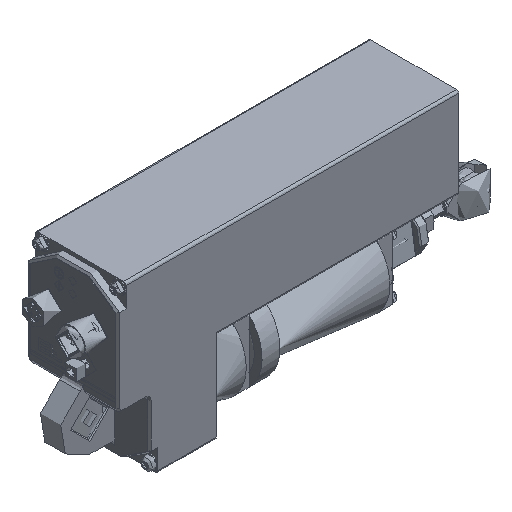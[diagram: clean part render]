
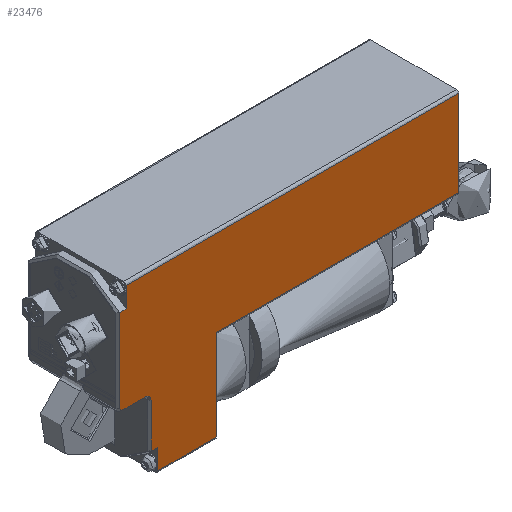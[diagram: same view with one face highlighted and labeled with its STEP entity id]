
A CAD part, isometric view. The second image highlights one B-rep face of the part: STEP entity #23476.
In plain terms, the highlighted planar face has unit normal (0, -1, 0).
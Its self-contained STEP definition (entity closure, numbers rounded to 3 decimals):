
#1209 = DIRECTION ( 'NONE',  ( 0., 0., -1. ) ) ;
#1273 = CARTESIAN_POINT ( 'NONE',  ( 113.5, -20., 39. ) ) ;
#1356 = LINE ( 'NONE', #52636, #52992 ) ;
#2210 = CARTESIAN_POINT ( 'NONE',  ( 113.5, -20., 1. ) ) ;
#2596 = CARTESIAN_POINT ( 'NONE',  ( -47.5, -20., -30.019 ) ) ;
#2784 = CARTESIAN_POINT ( 'NONE',  ( -33.5, -20., 40. ) ) ;
#3185 = VECTOR ( 'NONE', #47646, 1000. ) ;
#5417 = VECTOR ( 'NONE', #1209, 1000. ) ;
#6158 = ORIENTED_EDGE ( 'NONE', *, *, #11614, .T. ) ;
#6689 = ORIENTED_EDGE ( 'NONE', *, *, #30806, .T. ) ;
#7362 = CARTESIAN_POINT ( 'NONE',  ( -22.141, -20., -29.888 ) ) ;
#8082 = CARTESIAN_POINT ( 'NONE',  ( -47.5, -20., 30.019 ) ) ;
#8243 = ORIENTED_EDGE ( 'NONE', *, *, #34456, .T. ) ;
#8951 = CARTESIAN_POINT ( 'NONE',  ( -9.5, -20., 40. ) ) ;
#9381 = EDGE_CURVE ( 'NONE', #41498, #33802, #40967, .T. ) ;
#9500 = FACE_OUTER_BOUND ( 'NONE', #23773, .T. ) ;
#10378 = CARTESIAN_POINT ( 'NONE',  ( -19.5, -20., -40. ) ) ;
#10482 = CARTESIAN_POINT ( 'NONE',  ( -19.5, -20., -37. ) ) ;
#10642 = CARTESIAN_POINT ( 'NONE',  ( 6.5, -20., 1. ) ) ;
#10782 = EDGE_CURVE ( 'NONE', #32497, #27299, #54017, .T. ) ;
#11091 = CARTESIAN_POINT ( 'NONE',  ( -19.5, -20., -40. ) ) ;
#11099 = CARTESIAN_POINT ( 'NONE',  ( -22., -20., -30.019 ) ) ;
#11614 = EDGE_CURVE ( 'NONE', #36796, #32497, #53076, .T. ) ;
#11883 = CARTESIAN_POINT ( 'NONE',  ( -36.423, -20., -6.845 ) ) ;
#13711 = PLANE ( 'NONE',  #17843 ) ;
#14198 = CARTESIAN_POINT ( 'NONE',  ( -35.634, -20., -8.211 ) ) ;
#14359 = VERTEX_POINT ( 'NONE', #40175 ) ;
#14471 = VERTEX_POINT ( 'NONE', #10642 ) ;
#14671 = VECTOR ( 'NONE', #36055, 1000. ) ;
#16009 = VERTEX_POINT ( 'NONE', #2210 ) ;
#16505 = CARTESIAN_POINT ( 'NONE',  ( -36.423, -20., 30.019 ) ) ;
#17843 = AXIS2_PLACEMENT_3D ( 'NONE', #8951, #30163, #21845 ) ;
#18048 = CARTESIAN_POINT ( 'NONE',  ( -33.5, -20., 30.019 ) ) ;
#18214 = DIRECTION ( 'NONE',  ( 0., 0., -1. ) ) ;
#18369 = VERTEX_POINT ( 'NONE', #52061 ) ;
#19662 = LINE ( 'NONE', #36892, #20034 ) ;
#20034 = VECTOR ( 'NONE', #53372, 1000. ) ;
#20139 = CARTESIAN_POINT ( 'NONE',  ( -33.5, -20., 39. ) ) ;
#21003 = LINE ( 'NONE', #29344, #24886 ) ;
#21227 = CARTESIAN_POINT ( 'NONE',  ( -22.423, -20., -29.623 ) ) ;
#21517 = CIRCLE ( 'NONE', #47320, 2.577 ) ;
#21621 = LINE ( 'NONE', #39645, #5417 ) ;
#21845 = DIRECTION ( 'NONE',  ( 0., 0., 1. ) ) ;
#22111 = ORIENTED_EDGE ( 'NONE', *, *, #43048, .T. ) ;
#22512 = ORIENTED_EDGE ( 'NONE', *, *, #37847, .T. ) ;
#22664 = VERTEX_POINT ( 'NONE', #34416 ) ;
#22786 = ORIENTED_EDGE ( 'NONE', *, *, #29575, .T. ) ;
#23476 = ADVANCED_FACE ( 'NONE', ( #9500 ), #13711, .F. ) ;
#23484 = CARTESIAN_POINT ( 'NONE',  ( 113.5, -20., 39. ) ) ;
#23773 = EDGE_LOOP ( 'NONE', ( #39765, #8243, #26044, #34735, #22786, #22512, #6158, #27114, #25484, #38866, #42155, #6689, #22111, #24567, #38851, #25084 ) ) ;
#24567 = ORIENTED_EDGE ( 'NONE', *, *, #46610, .T. ) ;
#24596 = DIRECTION ( 'NONE',  ( 1., 0., 0. ) ) ;
#24886 = VECTOR ( 'NONE', #46321, 1000. ) ;
#25084 = ORIENTED_EDGE ( 'NONE', *, *, #26003, .F. ) ;
#25484 = ORIENTED_EDGE ( 'NONE', *, *, #41464, .T. ) ;
#25697 = LINE ( 'NONE', #14198, #49413 ) ;
#25737 = DIRECTION ( 'NONE',  ( 0., 0., 1. ) ) ;
#26003 = EDGE_CURVE ( 'NONE', #53738, #33802, #37069, .T. ) ;
#26044 = ORIENTED_EDGE ( 'NONE', *, *, #28197, .T. ) ;
#26924 = VERTEX_POINT ( 'NONE', #23484 ) ;
#27114 = ORIENTED_EDGE ( 'NONE', *, *, #10782, .T. ) ;
#27299 = VERTEX_POINT ( 'NONE', #10482 ) ;
#28197 = EDGE_CURVE ( 'NONE', #14359, #41839, #39942, .T. ) ;
#28625 = VECTOR ( 'NONE', #35982, 1000. ) ;
#29344 = CARTESIAN_POINT ( 'NONE',  ( -9.5, -20., -39. ) ) ;
#29575 = EDGE_CURVE ( 'NONE', #22664, #36405, #1356, .T. ) ;
#30036 = VECTOR ( 'NONE', #50552, 1000. ) ;
#30163 = DIRECTION ( 'NONE',  ( 0., 1., 0. ) ) ;
#30806 = EDGE_CURVE ( 'NONE', #14471, #16009, #51526, .T. ) ;
#31152 = DIRECTION ( 'NONE',  ( 0.5, 0., -0.866 ) ) ;
#31407 = DIRECTION ( 'NONE',  ( 0., 0., -1. ) ) ;
#32497 = VERTEX_POINT ( 'NONE', #43308 ) ;
#33397 = EDGE_CURVE ( 'NONE', #14471, #53639, #19662, .T. ) ;
#33802 = VERTEX_POINT ( 'NONE', #18048 ) ;
#33930 = DIRECTION ( 'NONE',  ( 0., 0., -1. ) ) ;
#34416 = CARTESIAN_POINT ( 'NONE',  ( -22.423, -20., -10.5 ) ) ;
#34456 = EDGE_CURVE ( 'NONE', #48643, #14359, #25697, .T. ) ;
#34735 = ORIENTED_EDGE ( 'NONE', *, *, #50551, .T. ) ;
#35969 = B_SPLINE_CURVE_WITH_KNOTS ( 'NONE', 3,
 ( #36895, #40274, #7362, #44730 ),
 .UNSPECIFIED., .F., .F.,
 ( 4, 4 ),
 ( 0., 0.001 ),
 .UNSPECIFIED. ) ;
#35982 = DIRECTION ( 'NONE',  ( 1., 0., 0. ) ) ;
#36055 = DIRECTION ( 'NONE',  ( 0., 0., 1. ) ) ;
#36103 = EDGE_CURVE ( 'NONE', #18369, #53639, #21003, .T. ) ;
#36405 = VERTEX_POINT ( 'NONE', #21227 ) ;
#36796 = VERTEX_POINT ( 'NONE', #11099 ) ;
#36892 = CARTESIAN_POINT ( 'NONE',  ( 6.5, -20., 40. ) ) ;
#36895 = CARTESIAN_POINT ( 'NONE',  ( -22.423, -20., -29.623 ) ) ;
#37069 = LINE ( 'NONE', #8082, #37993 ) ;
#37847 = EDGE_CURVE ( 'NONE', #36405, #36796, #35969, .T. ) ;
#37993 = VECTOR ( 'NONE', #24596, 1000. ) ;
#38248 = CARTESIAN_POINT ( 'NONE',  ( -9.5, -20., 39. ) ) ;
#38851 = ORIENTED_EDGE ( 'NONE', *, *, #9381, .T. ) ;
#38866 = ORIENTED_EDGE ( 'NONE', *, *, #36103, .T. ) ;
#39084 = LINE ( 'NONE', #10378, #48372 ) ;
#39221 = CARTESIAN_POINT ( 'NONE',  ( -54.569, -20., 1. ) ) ;
#39645 = CARTESIAN_POINT ( 'NONE',  ( -36.423, -20., 40. ) ) ;
#39765 = ORIENTED_EDGE ( 'NONE', *, *, #50323, .T. ) ;
#39942 = LINE ( 'NONE', #40210, #28625 ) ;
#40175 = CARTESIAN_POINT ( 'NONE',  ( -35.801, -20., -7.923 ) ) ;
#40210 = CARTESIAN_POINT ( 'NONE',  ( -9.5, -20., -7.923 ) ) ;
#40274 = CARTESIAN_POINT ( 'NONE',  ( -22.282, -20., -29.756 ) ) ;
#40967 = LINE ( 'NONE', #2784, #53303 ) ;
#41464 = EDGE_CURVE ( 'NONE', #27299, #18369, #39084, .T. ) ;
#41498 = VERTEX_POINT ( 'NONE', #20139 ) ;
#41839 = VERTEX_POINT ( 'NONE', #50627 ) ;
#42098 = VECTOR ( 'NONE', #52517, 1000. ) ;
#42155 = ORIENTED_EDGE ( 'NONE', *, *, #33397, .F. ) ;
#43048 = EDGE_CURVE ( 'NONE', #16009, #26924, #44186, .T. ) ;
#43221 = DIRECTION ( 'NONE',  ( 0., 1., 0. ) ) ;
#43308 = CARTESIAN_POINT ( 'NONE',  ( -19.5, -20., -30.019 ) ) ;
#44186 = LINE ( 'NONE', #1273, #14671 ) ;
#44662 = CARTESIAN_POINT ( 'NONE',  ( 6.5, -20., -39. ) ) ;
#44730 = CARTESIAN_POINT ( 'NONE',  ( -22., -20., -30.019 ) ) ;
#45090 = DIRECTION ( 'NONE',  ( 0., 0., -1. ) ) ;
#46321 = DIRECTION ( 'NONE',  ( 1., 0., 0. ) ) ;
#46610 = EDGE_CURVE ( 'NONE', #26924, #41498, #54737, .T. ) ;
#47320 = AXIS2_PLACEMENT_3D ( 'NONE', #52157, #43221, #25737 ) ;
#47646 = DIRECTION ( 'NONE',  ( 1., 0., 0. ) ) ;
#48372 = VECTOR ( 'NONE', #18214, 1000. ) ;
#48643 = VERTEX_POINT ( 'NONE', #11883 ) ;
#49413 = VECTOR ( 'NONE', #31152, 1000. ) ;
#50323 = EDGE_CURVE ( 'NONE', #53738, #48643, #21621, .T. ) ;
#50551 = EDGE_CURVE ( 'NONE', #41839, #22664, #21517, .T. ) ;
#50552 = DIRECTION ( 'NONE',  ( -1., 0., 0. ) ) ;
#50627 = CARTESIAN_POINT ( 'NONE',  ( -25., -20., -7.923 ) ) ;
#51526 = LINE ( 'NONE', #39221, #3185 ) ;
#51704 = VECTOR ( 'NONE', #45090, 1000. ) ;
#52061 = CARTESIAN_POINT ( 'NONE',  ( -19.5, -20., -39. ) ) ;
#52157 = CARTESIAN_POINT ( 'NONE',  ( -25., -20., -10.5 ) ) ;
#52517 = DIRECTION ( 'NONE',  ( 1., 0., 0. ) ) ;
#52636 = CARTESIAN_POINT ( 'NONE',  ( -22.423, -20., -30.019 ) ) ;
#52992 = VECTOR ( 'NONE', #31407, 1000. ) ;
#53076 = LINE ( 'NONE', #2596, #42098 ) ;
#53303 = VECTOR ( 'NONE', #33930, 1000. ) ;
#53372 = DIRECTION ( 'NONE',  ( 0., 0., -1. ) ) ;
#53639 = VERTEX_POINT ( 'NONE', #44662 ) ;
#53738 = VERTEX_POINT ( 'NONE', #16505 ) ;
#54017 = LINE ( 'NONE', #11091, #51704 ) ;
#54737 = LINE ( 'NONE', #38248, #30036 ) ;
